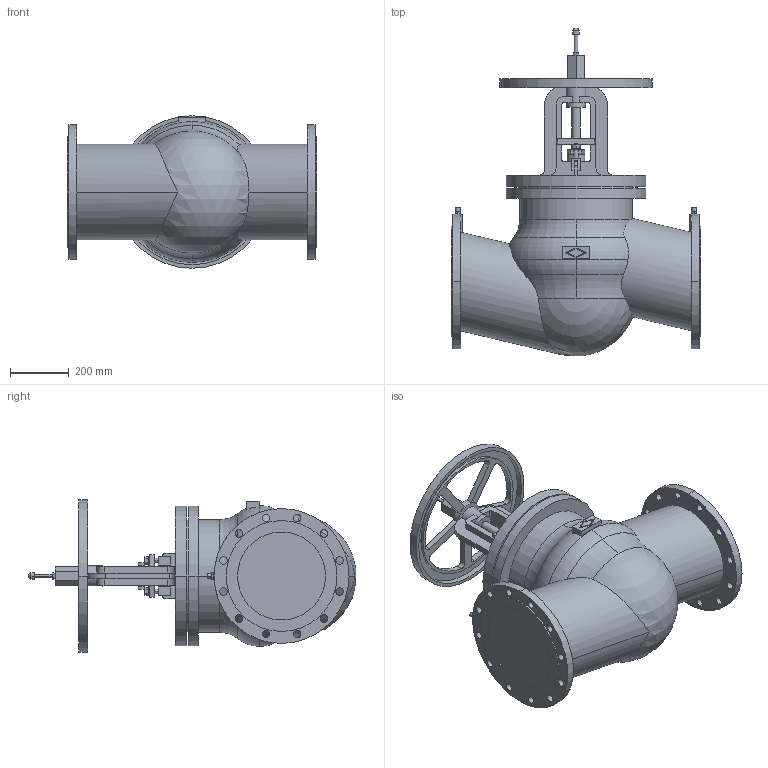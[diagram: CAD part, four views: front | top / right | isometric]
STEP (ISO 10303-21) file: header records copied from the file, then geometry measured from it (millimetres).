
FILE_DESCRIPTION( ( '' ), '1' );
FILE_NAME( 'F:/DE-SHS/TB/OR/04-Sonstiges/daten/files_3d/12042/c000000222.stp', '2015-04-28T06:37:54', ( '' ), ( '' ), ' ', ' ', ' ' );
FILE_SCHEMA( ( 'CONFIG_CONTROL_DESIGN' ) );
Length unit declared in the file: millimetre
Products named in the file (1): 1
Bounding box: 850 x 1118.82 x 520 mm (x, y, z)
Volume: 128951432.9 mm3; surface area: 2743515.7 mm2
Topology: 1 solids, 1 shells, 341 faces, 924 edges, 615 vertices
Faces by surface type: plane 172, cylinder 151, torus 14, sphere 4
Entity records: 11694 total; most frequent: CARTESIAN_POINT 2637, DIRECTION 1920, ORIENTED_EDGE 1848, EDGE_CURVE 924, AXIS2_PLACEMENT_3D 690, VERTEX_POINT 615, LINE 540, VECTOR 540
